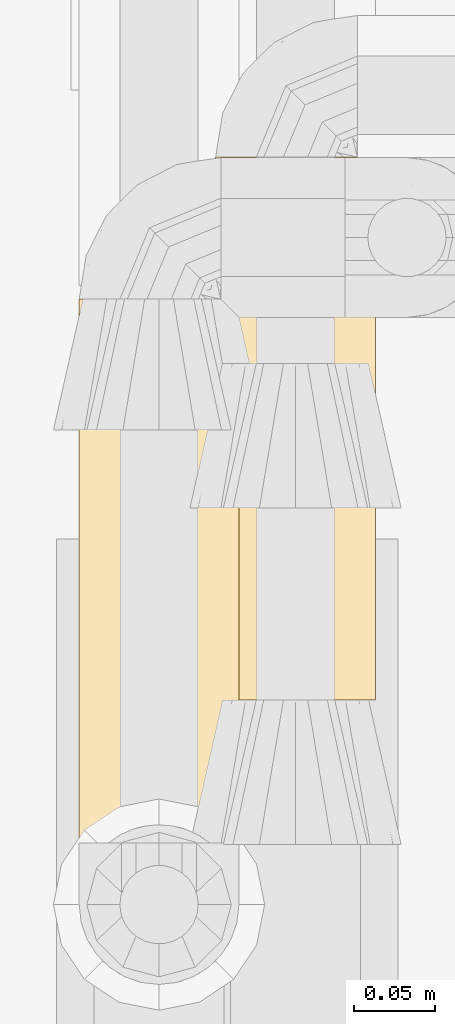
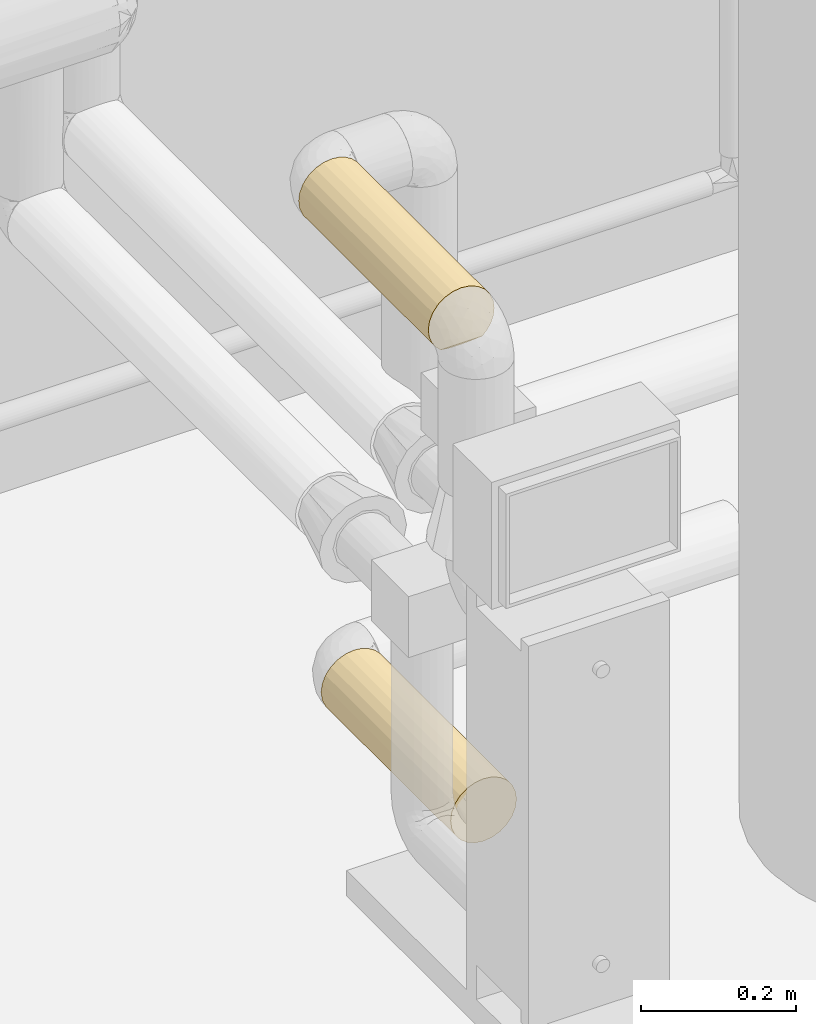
# One storey, part 33 of 94: 2 coverings.
"""IFC2X3 building model written with IfcOpenShell, lengths in millimetres."""

from ifc_helpers import new_model, entity, si_unit, converted_unit, derived_unit, direction, frame, origin, place, context, subcontext, project, spatial, faceted_brep, material, element, save


model = new_model("IFC2X3")

# Units and contexts
model_context = context("Model", 3, precision=0.01, world=origin(), true_north=direction((6.123031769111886e-17, 1.0)))
body_context = subcontext(model_context, "Body", "Model", "MODEL_VIEW")
ifc_project = project(units=[si_unit("LENGTHUNIT", "METRE", prefix="MILLI"), si_unit("AREAUNIT", "SQUARE_METRE"), si_unit("VOLUMEUNIT", "CUBIC_METRE"), converted_unit("PLANEANGLEUNIT", "DEGREE", entity("IfcRatioMeasure", 0.017453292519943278), si_unit("PLANEANGLEUNIT", "RADIAN"), dimensions=[0, 0, 0, 0, 0, 0, 0]), si_unit("MASSUNIT", "GRAM", prefix="KILO"), derived_unit("MASSDENSITYUNIT", [(si_unit("MASSUNIT", "GRAM", prefix="KILO"), 1), (si_unit("LENGTHUNIT", "METRE"), -3)]), derived_unit("IONCONCENTRATIONUNIT", [(si_unit("MASSUNIT", "GRAM", prefix="KILO"), 1), (si_unit("LENGTHUNIT", "METRE"), -3)]), derived_unit("MOMENTOFINERTIAUNIT", [(si_unit("LENGTHUNIT", "METRE"), 4)]), si_unit("TIMEUNIT", "SECOND"), si_unit("FREQUENCYUNIT", "HERTZ"), si_unit("THERMODYNAMICTEMPERATUREUNIT", "DEGREE_CELSIUS"), derived_unit("THERMALTRANSMITTANCEUNIT", [(si_unit("MASSUNIT", "GRAM", prefix="KILO"), 1), (si_unit("THERMODYNAMICTEMPERATUREUNIT", "KELVIN"), -1), (si_unit("TIMEUNIT", "SECOND"), -3)]), derived_unit("THERMALCONDUCTANCEUNIT", [(si_unit("MASSUNIT", "GRAM", prefix="KILO"), 1), (si_unit("THERMODYNAMICTEMPERATUREUNIT", "KELVIN"), -1), (si_unit("TIMEUNIT", "SECOND"), -3), (si_unit("LENGTHUNIT", "METRE"), 1)]), derived_unit("VOLUMETRICFLOWRATEUNIT", [(si_unit("LENGTHUNIT", "METRE"), 3), (si_unit("TIMEUNIT", "SECOND"), -1)]), derived_unit("MASSFLOWRATEUNIT", [(si_unit("MASSUNIT", "GRAM", prefix="KILO"), 1), (si_unit("TIMEUNIT", "SECOND"), -1)]), derived_unit("ROTATIONALFREQUENCYUNIT", [(si_unit("TIMEUNIT", "SECOND"), -1)]), si_unit("ELECTRICCURRENTUNIT", "AMPERE"), si_unit("ELECTRICVOLTAGEUNIT", "VOLT"), si_unit("POWERUNIT", "WATT"), si_unit("FORCEUNIT", "NEWTON", prefix="KILO"), si_unit("ILLUMINANCEUNIT", "LUX"), si_unit("LUMINOUSFLUXUNIT", "LUMEN"), si_unit("LUMINOUSINTENSITYUNIT", "CANDELA"), derived_unit("USERDEFINED", [(si_unit("MASSUNIT", "GRAM", prefix="KILO"), -1), (si_unit("LENGTHUNIT", "METRE"), -2), (si_unit("TIMEUNIT", "SECOND"), 3), (si_unit("LUMINOUSFLUXUNIT", "LUMEN"), 1)]), derived_unit("USERDEFINED", [(si_unit("MASSUNIT", "GRAM", prefix="KILO"), 1), (si_unit("TIMEUNIT", "SECOND"), -3), (si_unit("LENGTHUNIT", "METRE"), 3), (si_unit("ELECTRICCURRENTUNIT", "AMPERE"), -2)]), derived_unit("SOUNDPOWERUNIT", [(si_unit("MASSUNIT", "GRAM", prefix="KILO"), 1), (si_unit("TIMEUNIT", "SECOND"), -3), (si_unit("LENGTHUNIT", "METRE"), 2)]), derived_unit("SOUNDPRESSUREUNIT", [(si_unit("MASSUNIT", "GRAM", prefix="KILO"), 1), (si_unit("LENGTHUNIT", "METRE"), -1), (si_unit("TIMEUNIT", "SECOND"), -2)]), derived_unit("LINEARVELOCITYUNIT", [(si_unit("LENGTHUNIT", "METRE"), 1), (si_unit("TIMEUNIT", "SECOND"), -1)]), si_unit("PRESSUREUNIT", "PASCAL"), derived_unit("USERDEFINED", [(si_unit("MASSUNIT", "GRAM", prefix="KILO"), 1), (si_unit("LENGTHUNIT", "METRE"), -2), (si_unit("TIMEUNIT", "SECOND"), -2)]), derived_unit("LINEARFORCEUNIT", [(si_unit("MASSUNIT", "GRAM", prefix="KILO"), 1), (si_unit("TIMEUNIT", "SECOND"), -2)]), derived_unit("PLANARFORCEUNIT", [(si_unit("MASSUNIT", "GRAM", prefix="KILO"), 1), (si_unit("LENGTHUNIT", "METRE"), -1), (si_unit("TIMEUNIT", "SECOND"), -2)]), derived_unit("SPECIFICHEATCAPACITYUNIT", [(si_unit("THERMODYNAMICTEMPERATUREUNIT", "KELVIN"), -1), (si_unit("LENGTHUNIT", "METRE"), 2), (si_unit("TIMEUNIT", "SECOND"), -2)]), derived_unit("HEATINGVALUEUNIT", [(si_unit("LENGTHUNIT", "METRE"), 2), (si_unit("TIMEUNIT", "SECOND"), -2)]), derived_unit("VAPORPERMEABILITYUNIT", [(si_unit("LENGTHUNIT", "METRE"), -1), (si_unit("TIMEUNIT", "SECOND"), 1)]), derived_unit("DYNAMICVISCOSITYUNIT", [(si_unit("MASSUNIT", "GRAM", prefix="KILO"), 1), (si_unit("TIMEUNIT", "SECOND"), -1), (si_unit("LENGTHUNIT", "METRE"), -1)]), derived_unit("THERMALEXPANSIONCOEFFICIENTUNIT", [(si_unit("THERMODYNAMICTEMPERATUREUNIT", "KELVIN"), -1)]), derived_unit("MODULUSOFELASTICITYUNIT", [(si_unit("MASSUNIT", "GRAM", prefix="KILO"), 1), (si_unit("LENGTHUNIT", "METRE"), -1), (si_unit("TIMEUNIT", "SECOND"), -2)]), derived_unit("ISOTHERMALMOISTURECAPACITYUNIT", [(si_unit("LENGTHUNIT", "METRE"), 3), (si_unit("MASSUNIT", "GRAM", prefix="KILO"), -1)]), derived_unit("MOISTUREDIFFUSIVITYUNIT", [(si_unit("TIMEUNIT", "SECOND"), -1), (si_unit("LENGTHUNIT", "METRE"), 2)])], contexts=[model_context])

# Site, building, storey
site_placement = place(None, origin())
site = spatial("IfcSite", under=ifc_project, at=site_placement, Name="Default", CompositionType="ELEMENT")
building_placement = place(site_placement, origin())
building = spatial("IfcBuilding", under=site, at=building_placement, CompositionType="ELEMENT")
storey_placement = place(building_placement, origin())
storey = spatial("IfcBuildingStorey", under=building, at=storey_placement, Name="Niveau 0", CompositionType="ELEMENT", Elevation=0.0)

# Coverings
ifc_material = material(Name="Isolation - Laine minérale")
covering_1_placement = place(storey_placement, frame((-7061.4659544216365, 8901.275147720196, 949.274727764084)))
element("IfcCovering", 1, at=covering_1_placement, inside=storey, material=ifc_material, Name="Isolation des canalisations:Laine minérale", ObjectType="Isolation des canalisations:Laine minérale", PredefinedType="INSULATION", context=body_context, shape_type="Brep", body=[
    faceted_brep([(15.985116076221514, 336.2025315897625, 85.46542839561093), (26.160272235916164, 336.2025315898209, 93.27310032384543), (38.00949255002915, 336.20253158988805, 98.18120808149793), (50.72527223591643, 336.20253158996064, 99.855272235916), (61.509769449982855, 336.2025315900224, 98.65701036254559), (71.75354048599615, 336.2025315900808, 95.12762391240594), (80.97491255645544, 336.2025315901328, 89.43852785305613), (88.72454778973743, 336.2025315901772, 81.86707625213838), (88.72599685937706, 336.2025315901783, 19.585236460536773), (80.9762642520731, 336.2025315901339, 12.013072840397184), (71.75457281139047, 336.2025315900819, 6.323409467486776), (61.510322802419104, 336.20253159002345, 2.7936586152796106), (50.72527223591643, 336.2025315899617, 1.5952722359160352), (38.00949255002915, 336.20253158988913, 3.269336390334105), (26.160272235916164, 336.202531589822, 8.177444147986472), (15.985116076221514, 336.20253158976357, 15.985116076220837), (8.17744414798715, 336.2025315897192, 26.16027223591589), (3.26933639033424, 336.202531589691, 38.009492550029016), (1.5952722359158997, 336.20253158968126, 50.72527223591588), (3.26933639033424, 336.202531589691, 63.44105192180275), (8.17744414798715, 336.20253158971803, 75.29027223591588), (98.65694811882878, 1.5952722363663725, 39.94049838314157), (99.8552722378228, 1.5952722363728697, 50.72527223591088), (98.18120808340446, 1.595272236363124, 63.441051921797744), (93.27310032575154, 1.5952722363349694, 75.29027223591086), (85.46542839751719, 1.5952722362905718, 85.46542839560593), (75.29027223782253, 1.595272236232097, 93.27310032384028), (63.441051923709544, 1.5952722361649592, 98.18120808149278), (50.725272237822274, 1.5952722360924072, 99.85527223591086), (38.009492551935, 1.595272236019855, 98.18120808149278), (26.16027223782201, 1.5952722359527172, 93.27310032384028), (15.98511607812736, 1.5952722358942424, 85.46542839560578), (8.177444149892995, 1.5952722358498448, 75.29027223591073), (3.269336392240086, 1.595272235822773, 63.44105192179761), (1.5952722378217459, 1.5952722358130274, 50.725272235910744), (2.7935963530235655, 1.5952722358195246, 39.94049838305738), (6.323164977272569, 1.595272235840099, 29.69648789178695), (12.012544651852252, 1.595272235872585, 20.47495615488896), (19.584352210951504, 1.5952722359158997, 12.725272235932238), (81.86619226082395, 1.5952722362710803, 12.725272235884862), (89.43799982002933, 1.595272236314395, 20.47495615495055), (95.12737949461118, 1.595272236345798, 29.696487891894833), (99.13349344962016, 325.794505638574, 42.334740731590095), (96.98936468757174, 327.93882389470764, 34.19074322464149), (93.4858856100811, 331.4424811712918, 26.5325699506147), (99.85527223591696, 325.0725316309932, 50.72527223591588), (74.91872078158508, 6.355463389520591, 7.965081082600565), (67.26033951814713, 9.859172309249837, 4.46137216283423), (59.11608535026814, 12.003444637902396, 2.3170998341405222), (50.72527223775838, 12.72527223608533, 1.5952722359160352), (42.334459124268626, 12.00344463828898, 2.3170998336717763), (34.190204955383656, 9.85917230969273, 4.461372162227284), (26.53182369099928, 6.355463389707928, 7.965081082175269), (96.98897997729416, 327.93843918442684, 67.26087763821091), (99.13339583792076, 325.7942128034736, 59.11636688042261), (93.48504127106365, 331.4421997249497, 74.91946683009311)], [[[0, 1, 2, 3, 4, 5, 6, 7, 8, 9, 10, 11, 12, 13, 14, 15, 16, 17, 18, 19, 20]], [[21, 22, 23, 24, 25, 26, 27, 28, 29, 30, 31, 32, 33, 34, 35, 36, 37, 38, 39, 40, 41]], [[22, 21, 42]], [[21, 41, 43]], [[44, 41, 40]], [[42, 45, 22]], [[44, 43, 41]], [[8, 44, 40]], [[42, 21, 43]], [[40, 39, 8]], [[39, 46, 9]], [[47, 48, 11]], [[46, 47, 10]], [[9, 46, 10]], [[48, 12, 11]], [[11, 10, 47]], [[12, 48, 49]], [[39, 9, 8]], [[50, 51, 13]], [[52, 38, 14]], [[51, 52, 14]], [[49, 50, 12]], [[12, 50, 13]], [[51, 14, 13]], [[38, 15, 14]], [[16, 37, 36]], [[17, 36, 35]], [[18, 35, 34]], [[15, 37, 16]], [[16, 36, 17]], [[35, 18, 17]], [[37, 15, 38]], [[19, 18, 34, 33]], [[20, 19, 33, 32]], [[32, 31, 0, 20]], [[2, 1, 30, 29]], [[3, 2, 29, 28]], [[31, 30, 1, 0]], [[4, 28, 27]], [[5, 27, 26]], [[6, 26, 25]], [[3, 28, 4]], [[4, 27, 5]], [[26, 6, 5]], [[25, 7, 6]], [[53, 24, 23]], [[23, 22, 54]], [[45, 54, 22]], [[55, 7, 24]], [[54, 53, 23]], [[55, 24, 53]], [[24, 7, 25]], [[7, 55, 53, 54, 45, 42, 43, 44, 8]], [[52, 51, 50, 49, 48, 47, 46, 39, 38]]]),
])
covering_2_placement = place(storey_placement, frame((-6977.465954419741, 8990.870419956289, 194.72527223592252)))
element("IfcCovering", 2, at=covering_2_placement, inside=storey, material=ifc_material, Name="Isolation des canalisations:Laine minérale", ObjectType="Isolation des canalisations:Laine minérale", PredefinedType="INSULATION", context=body_context, shape_type="Brep", body=[
    faceted_brep([(38.00949255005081, 0.0, -98.18120808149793), (50.725272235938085, 0.0, -99.85527223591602), (63.441051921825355, 0.0, -98.18120808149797), (75.29027223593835, 0.0, -93.27310032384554), (85.465428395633, 0.0, -85.46542839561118), (93.27310032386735, 0.0, -75.29027223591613), (98.18120808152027, 0.0, -63.44105192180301), (99.85527223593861, 0.0, -50.72527223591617), (98.18120808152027, 0.0, -38.00949255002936), (93.27310032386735, 0.0, -26.160272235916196), (85.465428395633, 0.0, -15.985116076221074), (75.29027223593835, 0.0, -8.177444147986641), (63.441051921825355, 0.0, -3.269336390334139), (50.725272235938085, 0.0, -1.5952722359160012), (38.00949255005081, 0.0, -3.269336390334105), (26.16027223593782, 0.0, -8.177444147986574), (15.985116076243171, 0.0, -15.985116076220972), (8.177444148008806, 0.0, -26.16027223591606), (3.2693363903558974, 0.0, -38.00949255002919), (1.595272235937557, 0.0, -50.72527223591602), (3.2693363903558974, 0.0, -63.44105192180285), (8.177444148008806, 0.0, -75.29027223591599), (15.985116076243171, 0.0, -85.46542839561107), (26.16027223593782, 0.0, -93.27310032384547), (61.51004608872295, 334.06283837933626, -98.65694811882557), (50.72527223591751, 334.0628383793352, -99.85527223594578), (38.00949255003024, 334.0628383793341, -98.1812080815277), (26.160272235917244, 334.0628383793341, -93.27310032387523), (15.985116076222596, 334.0628383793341, -85.46542839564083), (8.177444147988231, 334.0628383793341, -75.29027223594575), (3.269336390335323, 334.0628383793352, -63.44105192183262), (1.5952722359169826, 334.06283837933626, -50.72527223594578), (3.269336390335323, 334.06283837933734, -38.00949255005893), (8.177444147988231, 334.0628383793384, -26.160272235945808), (15.985116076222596, 334.0628383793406, -15.985116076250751), (26.160272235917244, 334.06283837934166, -8.177444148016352), (38.00949255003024, 334.06283837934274, -3.269336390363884), (50.72527223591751, 334.0628383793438, -1.59527223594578), (61.51004608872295, 334.0628383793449, -2.793596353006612), (71.75405657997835, 334.0628383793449, -6.323164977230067), (80.975588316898, 334.0628383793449, -12.012544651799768), (88.7252722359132, 334.0628383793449, -19.584352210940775), (88.72527223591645, 334.0628383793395, -81.86619226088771), (80.97558831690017, 334.0628383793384, -89.43799982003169), (71.75405657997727, 334.06283837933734, -95.12737949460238), (93.48546338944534, 329.30264722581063, -74.91872078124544), (96.98917230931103, 325.798938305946, -67.26033951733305), (99.13344463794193, 323.6546659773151, -59.11608534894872), (99.85527223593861, 322.9328383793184, -50.72527223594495), (99.13344463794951, 323.65466597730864, -42.334459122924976), (96.98917230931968, 325.7989383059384, -34.19020495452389), (93.48546338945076, 329.3026472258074, -26.53182369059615)], [[[0, 1, 2, 3, 4, 5, 6, 7, 8, 9, 10, 11, 12, 13, 14, 15, 16, 17, 18, 19, 20, 21, 22, 23]], [[24, 25, 26, 27, 28, 29, 30, 31, 32, 33, 34, 35, 36, 37, 38, 39, 40, 41, 42, 43, 44]], [[30, 29, 21, 20]], [[31, 30, 20, 19]], [[22, 21, 29, 28]], [[0, 23, 27, 26]], [[1, 0, 26, 25]], [[28, 27, 23, 22]], [[1, 25, 24]], [[2, 24, 44]], [[3, 44, 43]], [[1, 24, 2]], [[2, 44, 3]], [[43, 4, 3]], [[43, 42, 4]], [[42, 45, 5]], [[46, 47, 6]], [[45, 46, 5]], [[5, 46, 6]], [[7, 6, 47]], [[48, 7, 47]], [[42, 5, 4]], [[49, 50, 8]], [[51, 41, 9]], [[50, 51, 9]], [[48, 49, 7]], [[7, 49, 8]], [[50, 9, 8]], [[41, 10, 9]], [[11, 40, 39]], [[12, 39, 38]], [[13, 38, 37]], [[10, 40, 11]], [[11, 39, 12]], [[38, 13, 12]], [[40, 10, 41]], [[14, 13, 37, 36]], [[15, 14, 36, 35]], [[35, 34, 16, 15]], [[18, 17, 33, 32]], [[19, 18, 32, 31]], [[34, 33, 17, 16]], [[41, 51, 50, 49, 48, 47, 46, 45, 42]]]),
])

save(model, "model.ifc")
